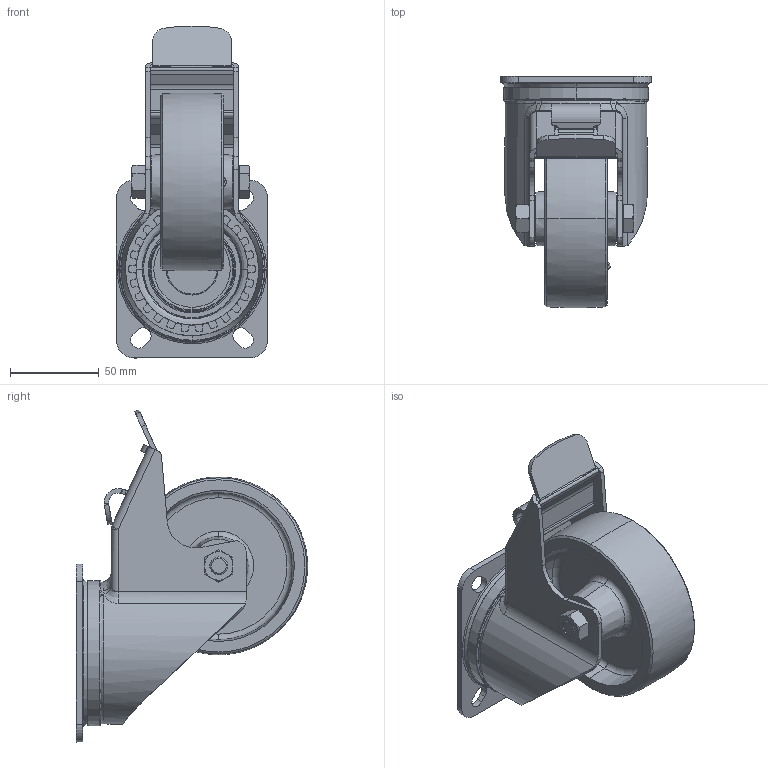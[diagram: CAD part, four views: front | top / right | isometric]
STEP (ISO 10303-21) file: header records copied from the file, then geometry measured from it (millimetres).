
FILE_DESCRIPTION (( 'STEP AP214' ), '1' );
FILE_NAME ('LK-G_100G-1-FI_642678-214.step', '2013-02-23T12:22:59', ( '' ), ( '' ), 'SwSTEP 2.0', 'SolidWorks 2012', '' );
FILE_SCHEMA (( 'AUTOMOTIVE_DESIGN' ));
Length unit declared in the file: millimetre
Products named in the file (5): AM_LK_10x52x2,5_G; G_G15_G_100_15G_007575; G-G_G15_G_100_15G_007575; GH-LK_100-1-FI_G15; LK-G_100G-1-FI_642678-214
Assembly tree (4 placements, depth 3):
  LK-G_100G-1-FI_642678-214
    GH-LK_100-1-FI_G15
    G_G15_G_100_15G_007575
      G-G_G15_G_100_15G_007575
    AM_LK_10x52x2,5_G
Bounding box: 85 x 129.92 x 186.63 mm (x, y, z)
Volume: 309447.3 mm3; surface area: 109199.9 mm2
Topology: 3 solids, 6 shells, 1210 faces, 3333 edges, 2183 vertices
Faces by surface type: plane 519, bspline 283, cylinder 280, cone 67, torus 58, sphere 3
Entity records: 64790 total; most frequent: CARTESIAN_POINT 25108, ORIENTED_EDGE 6652, DIRECTION 5175, EDGE_CURVE 3326, VERTEX_POINT 2181, VECTOR 1825, LINE 1825, AXIS2_PLACEMENT_3D 1675
